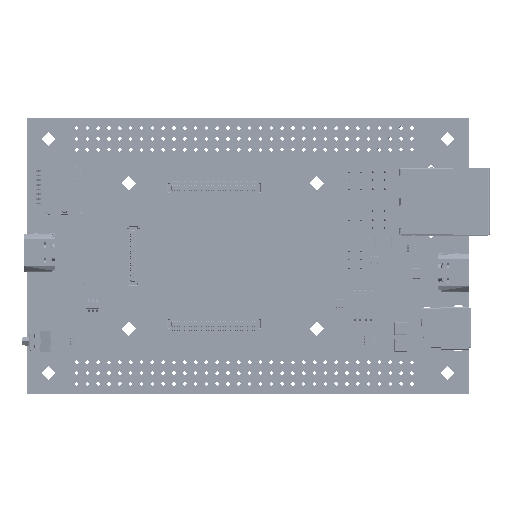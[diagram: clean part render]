
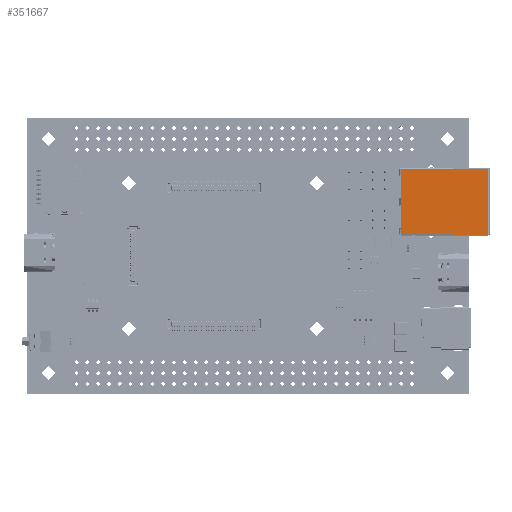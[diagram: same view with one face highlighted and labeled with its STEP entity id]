
A CAD part, top view. The second image highlights one B-rep face of the part: STEP entity #351667.
In plain terms, the highlighted planar face has unit normal (0, 0, 1) as drawn and (0, 1, 0) by its records, which use the part's own axes.
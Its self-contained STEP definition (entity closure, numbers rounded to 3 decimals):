
#349603 = VERTEX_POINT('',#349604);
#349604 = CARTESIAN_POINT('',(7.75,13.2,10.35));
#349613 = EDGE_CURVE('',#349614,#349603,#349616,.T.);
#349614 = VERTEX_POINT('',#349615);
#349615 = CARTESIAN_POINT('',(-7.75,13.2,10.35));
#349616 = LINE('',#349617,#349618);
#349617 = CARTESIAN_POINT('',(-7.75,13.2,10.35));
#349618 = VECTOR('',#349619,1.);
#349619 = DIRECTION('',(1.,0.,0.));
#351364 = VERTEX_POINT('',#351365);
#351365 = CARTESIAN_POINT('',(7.55,13.2,-10.251));
#351419 = VERTEX_POINT('',#351420);
#351420 = CARTESIAN_POINT('',(6.214,13.2,-10.251));
#351548 = VERTEX_POINT('',#351549);
#351549 = CARTESIAN_POINT('',(0.786,13.2,-10.251));
#351625 = VERTEX_POINT('',#351626);
#351626 = CARTESIAN_POINT('',(1.,13.2,-10.13));
#351632 = EDGE_CURVE('',#351548,#351625,#351633,.T.);
#351633 = CIRCLE('',#351634,0.25);
#351634 = AXIS2_PLACEMENT_3D('',#351635,#351636,#351637);
#351635 = CARTESIAN_POINT('',(1.,13.2,-10.38));
#351636 = DIRECTION('',(0.,1.,-0.));
#351637 = DIRECTION('',(-0.858,0.,0.514));
#351647 = EDGE_CURVE('',#351648,#351625,#351650,.T.);
#351648 = VERTEX_POINT('',#351649);
#351649 = CARTESIAN_POINT('',(6.,13.2,-10.13));
#351650 = LINE('',#351651,#351652);
#351651 = CARTESIAN_POINT('',(6.,13.2,-10.13));
#351652 = VECTOR('',#351653,1.);
#351653 = DIRECTION('',(-1.,0.,0.));
#351667 = ADVANCED_FACE('',(#351668),#351822,.T.);
#351668 = FACE_BOUND('',#351669,.F.);
#351669 = EDGE_LOOP('',(#351670,#351671,#351680,#351688,#351696,#351704,
    #351712,#351720,#351728,#351737,#351745,#351754,#351760,#351761,
    #351762,#351769,#351775,#351783,#351791,#351799,#351807,#351815));
#351670 = ORIENTED_EDGE('',*,*,#349613,.F.);
#351671 = ORIENTED_EDGE('',*,*,#351672,.T.);
#351672 = EDGE_CURVE('',#349614,#351673,#351675,.T.);
#351673 = VERTEX_POINT('',#351674);
#351674 = CARTESIAN_POINT('',(-7.75,13.2,10.34));
#351675 = CIRCLE('',#351676,0.2);
#351676 = AXIS2_PLACEMENT_3D('',#351677,#351678,#351679);
#351677 = CARTESIAN_POINT('',(-7.55,13.2,10.34));
#351678 = DIRECTION('',(0.,-1.,0.));
#351679 = DIRECTION('',(-0.999,0.,0.05));
#351680 = ORIENTED_EDGE('',*,*,#351681,.T.);
#351681 = EDGE_CURVE('',#351673,#351682,#351684,.T.);
#351682 = VERTEX_POINT('',#351683);
#351683 = CARTESIAN_POINT('',(-7.75,13.2,
    2.13));
#351684 = LINE('',#351685,#351686);
#351685 = CARTESIAN_POINT('',(-7.75,13.2,10.34));
#351686 = VECTOR('',#351687,1.);
#351687 = DIRECTION('',(0.,0.,-1.));
#351688 = ORIENTED_EDGE('',*,*,#351689,.T.);
#351689 = EDGE_CURVE('',#351682,#351690,#351692,.T.);
#351690 = VERTEX_POINT('',#351691);
#351691 = CARTESIAN_POINT('',(-7.55,13.2,1.97));
#351692 = LINE('',#351693,#351694);
#351693 = CARTESIAN_POINT('',(-7.75,13.2,
    2.13));
#351694 = VECTOR('',#351695,1.);
#351695 = DIRECTION('',(0.782,0.,
    -0.624));
#351696 = ORIENTED_EDGE('',*,*,#351697,.F.);
#351697 = EDGE_CURVE('',#351698,#351690,#351700,.T.);
#351698 = VERTEX_POINT('',#351699);
#351699 = CARTESIAN_POINT('',(-7.55,13.2,1.95));
#351700 = LINE('',#351701,#351702);
#351701 = CARTESIAN_POINT('',(-7.55,13.2,1.95));
#351702 = VECTOR('',#351703,1.);
#351703 = DIRECTION('',(0.,0.,1.));
#351704 = ORIENTED_EDGE('',*,*,#351705,.F.);
#351705 = EDGE_CURVE('',#351706,#351698,#351708,.T.);
#351706 = VERTEX_POINT('',#351707);
#351707 = CARTESIAN_POINT('',(-7.55,13.2,-10.23));
#351708 = LINE('',#351709,#351710);
#351709 = CARTESIAN_POINT('',(-7.55,13.2,-10.23));
#351710 = VECTOR('',#351711,1.);
#351711 = DIRECTION('',(0.,0.,1.));
#351712 = ORIENTED_EDGE('',*,*,#351713,.T.);
#351713 = EDGE_CURVE('',#351706,#351714,#351716,.T.);
#351714 = VERTEX_POINT('',#351715);
#351715 = CARTESIAN_POINT('',(-7.55,13.2,-10.251));
#351716 = LINE('',#351717,#351718);
#351717 = CARTESIAN_POINT('',(-7.55,13.2,-10.23));
#351718 = VECTOR('',#351719,1.);
#351719 = DIRECTION('',(0.,0.,-1.));
#351720 = ORIENTED_EDGE('',*,*,#351721,.F.);
#351721 = EDGE_CURVE('',#351722,#351714,#351724,.T.);
#351722 = VERTEX_POINT('',#351723);
#351723 = CARTESIAN_POINT('',(-6.214,13.2,-10.251));
#351724 = LINE('',#351725,#351726);
#351725 = CARTESIAN_POINT('',(-6.214,13.2,-10.251));
#351726 = VECTOR('',#351727,1.);
#351727 = DIRECTION('',(-1.,0.,0.));
#351728 = ORIENTED_EDGE('',*,*,#351729,.T.);
#351729 = EDGE_CURVE('',#351722,#351730,#351732,.T.);
#351730 = VERTEX_POINT('',#351731);
#351731 = CARTESIAN_POINT('',(-6.,13.2,-10.13));
#351732 = CIRCLE('',#351733,0.25);
#351733 = AXIS2_PLACEMENT_3D('',#351734,#351735,#351736);
#351734 = CARTESIAN_POINT('',(-6.,13.2,-10.38));
#351735 = DIRECTION('',(0.,1.,-0.));
#351736 = DIRECTION('',(-0.858,0.,0.514));
#351737 = ORIENTED_EDGE('',*,*,#351738,.T.);
#351738 = EDGE_CURVE('',#351730,#351739,#351741,.T.);
#351739 = VERTEX_POINT('',#351740);
#351740 = CARTESIAN_POINT('',(-1.,13.2,-10.13));
#351741 = LINE('',#351742,#351743);
#351742 = CARTESIAN_POINT('',(-6.,13.2,-10.13));
#351743 = VECTOR('',#351744,1.);
#351744 = DIRECTION('',(1.,0.,0.));
#351745 = ORIENTED_EDGE('',*,*,#351746,.T.);
#351746 = EDGE_CURVE('',#351739,#351747,#351749,.T.);
#351747 = VERTEX_POINT('',#351748);
#351748 = CARTESIAN_POINT('',(-0.786,13.2,-10.251));
#351749 = CIRCLE('',#351750,0.25);
#351750 = AXIS2_PLACEMENT_3D('',#351751,#351752,#351753);
#351751 = CARTESIAN_POINT('',(-1.,13.2,-10.38));
#351752 = DIRECTION('',(0.,1.,0.));
#351753 = DIRECTION('',(0.,0.,1.));
#351754 = ORIENTED_EDGE('',*,*,#351755,.F.);
#351755 = EDGE_CURVE('',#351548,#351747,#351756,.T.);
#351756 = LINE('',#351757,#351758);
#351757 = CARTESIAN_POINT('',(0.786,13.2,-10.251));
#351758 = VECTOR('',#351759,1.);
#351759 = DIRECTION('',(-1.,0.,0.));
#351760 = ORIENTED_EDGE('',*,*,#351632,.T.);
#351761 = ORIENTED_EDGE('',*,*,#351647,.F.);
#351762 = ORIENTED_EDGE('',*,*,#351763,.T.);
#351763 = EDGE_CURVE('',#351648,#351419,#351764,.T.);
#351764 = CIRCLE('',#351765,0.25);
#351765 = AXIS2_PLACEMENT_3D('',#351766,#351767,#351768);
#351766 = CARTESIAN_POINT('',(6.,13.2,-10.38));
#351767 = DIRECTION('',(0.,1.,-0.));
#351768 = DIRECTION('',(0.,0.,1.));
#351769 = ORIENTED_EDGE('',*,*,#351770,.F.);
#351770 = EDGE_CURVE('',#351364,#351419,#351771,.T.);
#351771 = LINE('',#351772,#351773);
#351772 = CARTESIAN_POINT('',(7.55,13.2,-10.251));
#351773 = VECTOR('',#351774,1.);
#351774 = DIRECTION('',(-1.,0.,0.));
#351775 = ORIENTED_EDGE('',*,*,#351776,.F.);
#351776 = EDGE_CURVE('',#351777,#351364,#351779,.T.);
#351777 = VERTEX_POINT('',#351778);
#351778 = CARTESIAN_POINT('',(7.55,13.2,-10.23));
#351779 = LINE('',#351780,#351781);
#351780 = CARTESIAN_POINT('',(7.55,13.2,-10.23));
#351781 = VECTOR('',#351782,1.);
#351782 = DIRECTION('',(0.,0.,-1.));
#351783 = ORIENTED_EDGE('',*,*,#351784,.F.);
#351784 = EDGE_CURVE('',#351785,#351777,#351787,.T.);
#351785 = VERTEX_POINT('',#351786);
#351786 = CARTESIAN_POINT('',(7.55,13.2,1.95));
#351787 = LINE('',#351788,#351789);
#351788 = CARTESIAN_POINT('',(7.55,13.2,1.95));
#351789 = VECTOR('',#351790,1.);
#351790 = DIRECTION('',(0.,0.,-1.));
#351791 = ORIENTED_EDGE('',*,*,#351792,.F.);
#351792 = EDGE_CURVE('',#351793,#351785,#351795,.T.);
#351793 = VERTEX_POINT('',#351794);
#351794 = CARTESIAN_POINT('',(7.55,13.2,1.97));
#351795 = LINE('',#351796,#351797);
#351796 = CARTESIAN_POINT('',(7.55,13.2,1.97));
#351797 = VECTOR('',#351798,1.);
#351798 = DIRECTION('',(0.,0.,-1.));
#351799 = ORIENTED_EDGE('',*,*,#351800,.T.);
#351800 = EDGE_CURVE('',#351793,#351801,#351803,.T.);
#351801 = VERTEX_POINT('',#351802);
#351802 = CARTESIAN_POINT('',(7.75,13.2,
    2.13));
#351803 = LINE('',#351804,#351805);
#351804 = CARTESIAN_POINT('',(7.55,13.2,1.97));
#351805 = VECTOR('',#351806,1.);
#351806 = DIRECTION('',(0.782,0.,
    0.624));
#351807 = ORIENTED_EDGE('',*,*,#351808,.F.);
#351808 = EDGE_CURVE('',#351809,#351801,#351811,.T.);
#351809 = VERTEX_POINT('',#351810);
#351810 = CARTESIAN_POINT('',(7.75,13.2,10.34));
#351811 = LINE('',#351812,#351813);
#351812 = CARTESIAN_POINT('',(7.75,13.2,10.34));
#351813 = VECTOR('',#351814,1.);
#351814 = DIRECTION('',(0.,0.,-1.));
#351815 = ORIENTED_EDGE('',*,*,#351816,.T.);
#351816 = EDGE_CURVE('',#351809,#349603,#351817,.T.);
#351817 = CIRCLE('',#351818,0.2);
#351818 = AXIS2_PLACEMENT_3D('',#351819,#351820,#351821);
#351819 = CARTESIAN_POINT('',(7.55,13.2,10.34));
#351820 = DIRECTION('',(0.,-1.,0.));
#351821 = DIRECTION('',(1.,0.,0.));
#351822 = PLANE('',#351823);
#351823 = AXIS2_PLACEMENT_3D('',#351824,#351825,#351826);
#351824 = CARTESIAN_POINT('',(5.909,13.2,10.75));
#351825 = DIRECTION('',(0.,1.,0.));
#351826 = DIRECTION('',(-1.,0.,0.));
